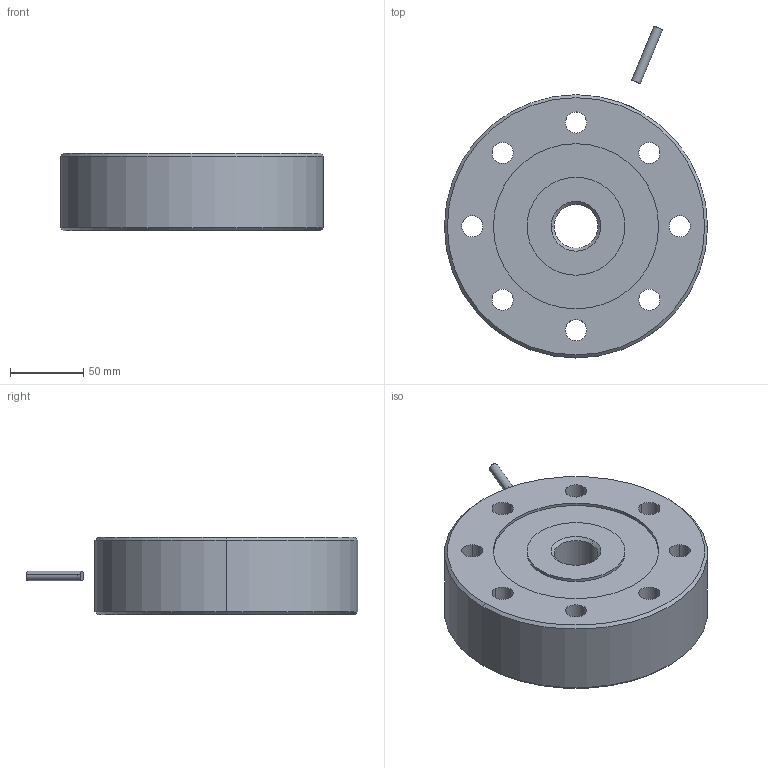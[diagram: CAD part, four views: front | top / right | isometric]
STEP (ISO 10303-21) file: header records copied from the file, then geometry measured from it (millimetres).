
FILE_DESCRIPTION (( 'STEP AP203' ), '1' );
FILE_NAME ('KMC180 K 300N.STEP', '2025-04-01T07:18:19', ( '' ), ( '' ), 'SwSTEP 2.0', 'SolidWorks 2024', '' );
FILE_SCHEMA (( 'CONFIG_CONTROL_DESIGN' ));
Length unit declared in the file: millimetre
Products named in the file (1): KMC180 K 300N
Bounding box: 180 x 227.05 x 53 mm (x, y, z)
Volume: 1189023.6 mm3; surface area: 104813.1 mm2
Topology: 3 solids, 3 shells, 66 faces, 148 edges, 93 vertices
Faces by surface type: cylinder 40, plane 12, cone 12, bspline 2
Entity records: 2257 total; most frequent: CARTESIAN_POINT 624, DIRECTION 354, ORIENTED_EDGE 292, AXIS2_PLACEMENT_3D 151, EDGE_CURVE 146, VERTEX_POINT 93, EDGE_LOOP 91, CIRCLE 86
